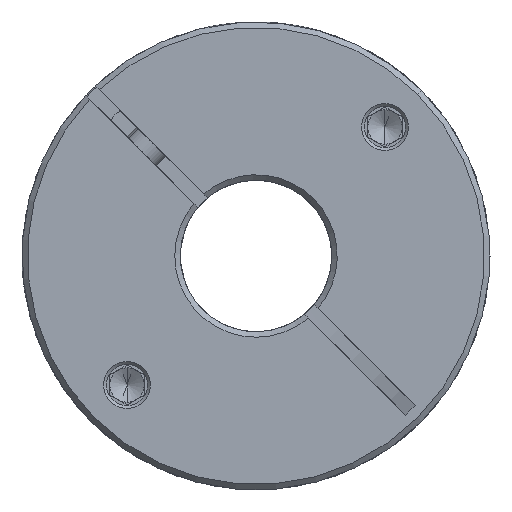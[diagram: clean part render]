
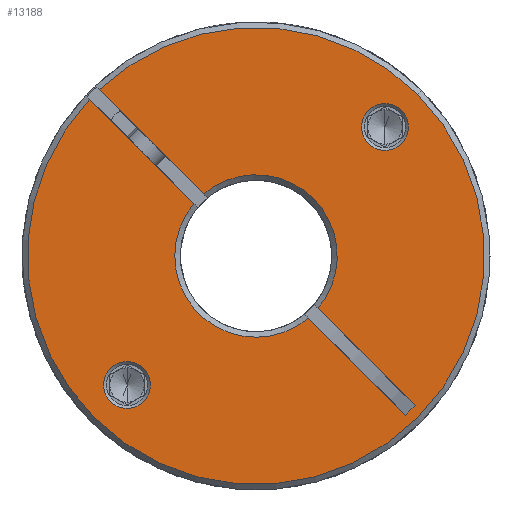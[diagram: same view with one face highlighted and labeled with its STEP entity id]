
A CAD part, front view. The second image highlights one B-rep face of the part: STEP entity #13188.
In plain terms, the highlighted planar face has unit normal (0, -1, 0).
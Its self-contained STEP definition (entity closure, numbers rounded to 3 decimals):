
#190 = LINE ( 'NONE', #5895, #5368 ) ;
#575 = VERTEX_POINT ( 'NONE', #16585 ) ;
#628 = DIRECTION ( 'NONE',  ( 0., -1., 0. ) ) ;
#964 = CARTESIAN_POINT ( 'NONE',  ( 13.599, -67.045, 84.334 ) ) ;
#1216 = ORIENTED_EDGE ( 'NONE', *, *, #20800, .T. ) ;
#1278 = DIRECTION ( 'NONE',  ( 0.707, 0., 0.707 ) ) ;
#2088 = CARTESIAN_POINT ( 'NONE',  ( -2.735, -67.045, 68. ) ) ;
#2141 = CARTESIAN_POINT ( 'NONE',  ( -3.442, -67.045, 67.293 ) ) ;
#2241 = CARTESIAN_POINT ( 'NONE',  ( -2.735, -67.045, 68. ) ) ;
#2245 = AXIS2_PLACEMENT_3D ( 'NONE', #11431, #18059, #9625 ) ;
#2331 = EDGE_CURVE ( 'NONE', #13971, #14005, #17495, .T. ) ;
#2375 = VERTEX_POINT ( 'NONE', #21097 ) ;
#2426 = CARTESIAN_POINT ( 'NONE',  ( -2.735, -67.045, 68. ) ) ;
#2628 = LINE ( 'NONE', #2141, #10355 ) ;
#2710 = ORIENTED_EDGE ( 'NONE', *, *, #2331, .T. ) ;
#2841 = AXIS2_PLACEMENT_3D ( 'NONE', #7186, #17297, #15479 ) ;
#2859 = CARTESIAN_POINT ( 'NONE',  ( 20.402, -67.045, 46.277 ) ) ;
#3175 = VERTEX_POINT ( 'NONE', #16404 ) ;
#3591 = DIRECTION ( 'NONE',  ( 0.707, 0., 0.707 ) ) ;
#3705 = DIRECTION ( 'NONE',  ( 0., 1., 0. ) ) ;
#3764 = DIRECTION ( 'NONE',  ( 0.707, 0., 0.707 ) ) ;
#3830 = VECTOR ( 'NONE', #8716, 1000. ) ;
#4104 = DIRECTION ( 'NONE',  ( 0.707, 0., 0.707 ) ) ;
#4116 = CIRCLE ( 'NONE', #16770, 11.8 ) ;
#4124 = VERTEX_POINT ( 'NONE', #5325 ) ;
#4229 = CARTESIAN_POINT ( 'NONE',  ( 5.609, -67.045, 76.344 ) ) ;
#4645 = CARTESIAN_POINT ( 'NONE',  ( 18.988, -67.045, 44.862 ) ) ;
#4935 = EDGE_CURVE ( 'NONE', #19702, #21269, #9401, .T. ) ;
#4999 = VECTOR ( 'NONE', #15604, 1000. ) ;
#5325 = CARTESIAN_POINT ( 'NONE',  ( 18.988, -67.045, 44.862 ) ) ;
#5368 = VECTOR ( 'NONE', #16072, 1000. ) ;
#5427 = AXIS2_PLACEMENT_3D ( 'NONE', #2088, #8401, #3764 ) ;
#5746 = EDGE_LOOP ( 'NONE', ( #6182, #12536, #5771, #16074, #8883, #15396, #6849, #2710, #15271, #14756, #9178 ) ) ;
#5771 = ORIENTED_EDGE ( 'NONE', *, *, #12382, .T. ) ;
#5895 = CARTESIAN_POINT ( 'NONE',  ( -3.442, -67.045, 67.293 ) ) ;
#5943 = CARTESIAN_POINT ( 'NONE',  ( -21.473, -67.045, 49.262 ) ) ;
#5991 = CIRCLE ( 'NONE', #13853, 33.2 ) ;
#6182 = ORIENTED_EDGE ( 'NONE', *, *, #20107, .F. ) ;
#6293 = CARTESIAN_POINT ( 'NONE',  ( -2.735, -67.045, 68. ) ) ;
#6480 = VERTEX_POINT ( 'NONE', #10957 ) ;
#6540 = EDGE_CURVE ( 'NONE', #6480, #4124, #2628, .T. ) ;
#6595 = VERTEX_POINT ( 'NONE', #18881 ) ;
#6849 = ORIENTED_EDGE ( 'NONE', *, *, #19535, .T. ) ;
#6933 = ORIENTED_EDGE ( 'NONE', *, *, #8844, .T. ) ;
#7185 = CARTESIAN_POINT ( 'NONE',  ( -2.028, -67.045, 68.707 ) ) ;
#7186 = CARTESIAN_POINT ( 'NONE',  ( 16.003, -67.045, 86.738 ) ) ;
#7203 = CARTESIAN_POINT ( 'NONE',  ( -26.211, -67.045, 44.524 ) ) ;
#7433 = DIRECTION ( 'NONE',  ( 0.707, 0., 0.707 ) ) ;
#7631 = EDGE_CURVE ( 'NONE', #11096, #18557, #9019, .T. ) ;
#8152 = AXIS2_PLACEMENT_3D ( 'NONE', #19938, #10065, #3591 ) ;
#8261 = VERTEX_POINT ( 'NONE', #7203 ) ;
#8401 = DIRECTION ( 'NONE',  ( 0., -1., 0. ) ) ;
#8493 = DIRECTION ( 'NONE',  ( 0.707, 0., 0.707 ) ) ;
#8716 = DIRECTION ( 'NONE',  ( 0.707, 0., -0.707 ) ) ;
#8844 = EDGE_CURVE ( 'NONE', #18557, #11096, #13373, .T. ) ;
#8883 = ORIENTED_EDGE ( 'NONE', *, *, #16488, .T. ) ;
#9019 = CIRCLE ( 'NONE', #2841, 3.4 ) ;
#9103 = CARTESIAN_POINT ( 'NONE',  ( -23.878, -67.045, 46.858 ) ) ;
#9178 = ORIENTED_EDGE ( 'NONE', *, *, #21377, .T. ) ;
#9401 = CIRCLE ( 'NONE', #14380, 3.4 ) ;
#9625 = DIRECTION ( 'NONE',  ( 0.707, 0., 0.707 ) ) ;
#9736 = PLANE ( 'NONE',  #5427 ) ;
#9777 = VERTEX_POINT ( 'NONE', #4229 ) ;
#9958 = AXIS2_PLACEMENT_3D ( 'NONE', #2426, #15585, #7433 ) ;
#10065 = DIRECTION ( 'NONE',  ( 0., 1., 0. ) ) ;
#10160 = LINE ( 'NONE', #15391, #4999 ) ;
#10185 = CARTESIAN_POINT ( 'NONE',  ( -2.735, -67.045, 68. ) ) ;
#10355 = VECTOR ( 'NONE', #15227, 1000. ) ;
#10429 = LINE ( 'NONE', #4645, #13494 ) ;
#10889 = FACE_OUTER_BOUND ( 'NONE', #5746, .T. ) ;
#10957 = CARTESIAN_POINT ( 'NONE',  ( 4.872, -67.045, 58.979 ) ) ;
#11026 = DIRECTION ( 'NONE',  ( 0., 1., 0. ) ) ;
#11096 = VERTEX_POINT ( 'NONE', #15490 ) ;
#11393 = ORIENTED_EDGE ( 'NONE', *, *, #7631, .T. ) ;
#11431 = CARTESIAN_POINT ( 'NONE',  ( -2.735, -67.045, 68. ) ) ;
#11498 = ORIENTED_EDGE ( 'NONE', *, *, #4935, .T. ) ;
#12382 = EDGE_CURVE ( 'NONE', #8261, #2375, #18117, .T. ) ;
#12536 = ORIENTED_EDGE ( 'NONE', *, *, #19731, .T. ) ;
#12665 = CARTESIAN_POINT ( 'NONE',  ( 16.003, -67.045, 86.738 ) ) ;
#12673 = FACE_BOUND ( 'NONE', #18509, .T. ) ;
#12743 = AXIS2_PLACEMENT_3D ( 'NONE', #5943, #18893, #20813 ) ;
#12954 = DIRECTION ( 'NONE',  ( -0.707, 0., -0.707 ) ) ;
#13188 = ADVANCED_FACE ( 'NONE', ( #12673, #14245, #10889 ), #9736, .T. ) ;
#13373 = CIRCLE ( 'NONE', #19289, 3.4 ) ;
#13415 = EDGE_CURVE ( 'NONE', #2375, #21216, #5991, .T. ) ;
#13494 = VECTOR ( 'NONE', #12954, 1000. ) ;
#13853 = AXIS2_PLACEMENT_3D ( 'NONE', #2241, #628, #4104 ) ;
#13971 = VERTEX_POINT ( 'NONE', #18653 ) ;
#14005 = VERTEX_POINT ( 'NONE', #2859 ) ;
#14245 = FACE_BOUND ( 'NONE', #17394, .T. ) ;
#14380 = AXIS2_PLACEMENT_3D ( 'NONE', #20996, #11026, #17606 ) ;
#14576 = DIRECTION ( 'NONE',  ( 0., 1., 0. ) ) ;
#14756 = ORIENTED_EDGE ( 'NONE', *, *, #6540, .F. ) ;
#15099 = CIRCLE ( 'NONE', #15504, 11.8 ) ;
#15227 = DIRECTION ( 'NONE',  ( 0.707, 0., -0.707 ) ) ;
#15250 = EDGE_CURVE ( 'NONE', #3175, #9777, #4116, .T. ) ;
#15271 = ORIENTED_EDGE ( 'NONE', *, *, #16733, .T. ) ;
#15391 = CARTESIAN_POINT ( 'NONE',  ( -2.028, -67.045, 68.707 ) ) ;
#15396 = ORIENTED_EDGE ( 'NONE', *, *, #15250, .T. ) ;
#15479 = DIRECTION ( 'NONE',  ( 0.707, 0., 0.707 ) ) ;
#15490 = CARTESIAN_POINT ( 'NONE',  ( 18.407, -67.045, 89.142 ) ) ;
#15504 = AXIS2_PLACEMENT_3D ( 'NONE', #10185, #3705, #8493 ) ;
#15581 = CARTESIAN_POINT ( 'NONE',  ( -19.069, -67.045, 51.666 ) ) ;
#15585 = DIRECTION ( 'NONE',  ( 0., -1., 0. ) ) ;
#15604 = DIRECTION ( 'NONE',  ( 0.707, 0., -0.707 ) ) ;
#16072 = DIRECTION ( 'NONE',  ( 0.707, 0., -0.707 ) ) ;
#16074 = ORIENTED_EDGE ( 'NONE', *, *, #13415, .T. ) ;
#16404 = CARTESIAN_POINT ( 'NONE',  ( -10.342, -67.045, 77.021 ) ) ;
#16452 = CIRCLE ( 'NONE', #9958, 33.2 ) ;
#16488 = EDGE_CURVE ( 'NONE', #21216, #3175, #10160, .T. ) ;
#16585 = CARTESIAN_POINT ( 'NONE',  ( -11.756, -67.045, 75.607 ) ) ;
#16733 = EDGE_CURVE ( 'NONE', #14005, #4124, #10429, .T. ) ;
#16770 = AXIS2_PLACEMENT_3D ( 'NONE', #6293, #14576, #19820 ) ;
#17297 = DIRECTION ( 'NONE',  ( 0., 1., 0. ) ) ;
#17394 = EDGE_LOOP ( 'NONE', ( #1216, #11498 ) ) ;
#17495 = LINE ( 'NONE', #7185, #3830 ) ;
#17606 = DIRECTION ( 'NONE',  ( 0.707, 0., 0.707 ) ) ;
#17722 = DIRECTION ( 'NONE',  ( 0., 1., 0. ) ) ;
#18059 = DIRECTION ( 'NONE',  ( 0., -1., 0. ) ) ;
#18117 = CIRCLE ( 'NONE', #2245, 33.2 ) ;
#18509 = EDGE_LOOP ( 'NONE', ( #11393, #6933 ) ) ;
#18557 = VERTEX_POINT ( 'NONE', #964 ) ;
#18653 = CARTESIAN_POINT ( 'NONE',  ( 6.286, -67.045, 60.393 ) ) ;
#18881 = CARTESIAN_POINT ( 'NONE',  ( -26.908, -67.045, 90.758 ) ) ;
#18893 = DIRECTION ( 'NONE',  ( 0., 1., 0. ) ) ;
#19289 = AXIS2_PLACEMENT_3D ( 'NONE', #12665, #17722, #1278 ) ;
#19311 = CIRCLE ( 'NONE', #8152, 11.8 ) ;
#19535 = EDGE_CURVE ( 'NONE', #9777, #13971, #19311, .T. ) ;
#19702 = VERTEX_POINT ( 'NONE', #9103 ) ;
#19731 = EDGE_CURVE ( 'NONE', #6595, #8261, #16452, .T. ) ;
#19820 = DIRECTION ( 'NONE',  ( 0.707, 0., 0.707 ) ) ;
#19938 = CARTESIAN_POINT ( 'NONE',  ( -2.735, -67.045, 68. ) ) ;
#20107 = EDGE_CURVE ( 'NONE', #6595, #575, #190, .T. ) ;
#20361 = CARTESIAN_POINT ( 'NONE',  ( -25.493, -67.045, 92.172 ) ) ;
#20800 = EDGE_CURVE ( 'NONE', #21269, #19702, #20838, .T. ) ;
#20813 = DIRECTION ( 'NONE',  ( 0.707, 0., 0.707 ) ) ;
#20838 = CIRCLE ( 'NONE', #12743, 3.4 ) ;
#20996 = CARTESIAN_POINT ( 'NONE',  ( -21.473, -67.045, 49.262 ) ) ;
#21097 = CARTESIAN_POINT ( 'NONE',  ( 20.741, -67.045, 91.476 ) ) ;
#21216 = VERTEX_POINT ( 'NONE', #20361 ) ;
#21269 = VERTEX_POINT ( 'NONE', #15581 ) ;
#21377 = EDGE_CURVE ( 'NONE', #6480, #575, #15099, .T. ) ;
